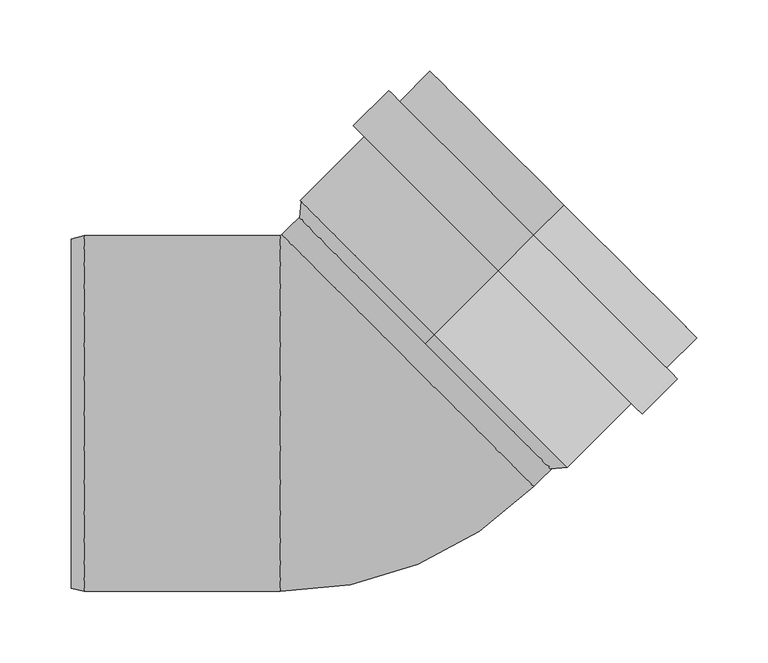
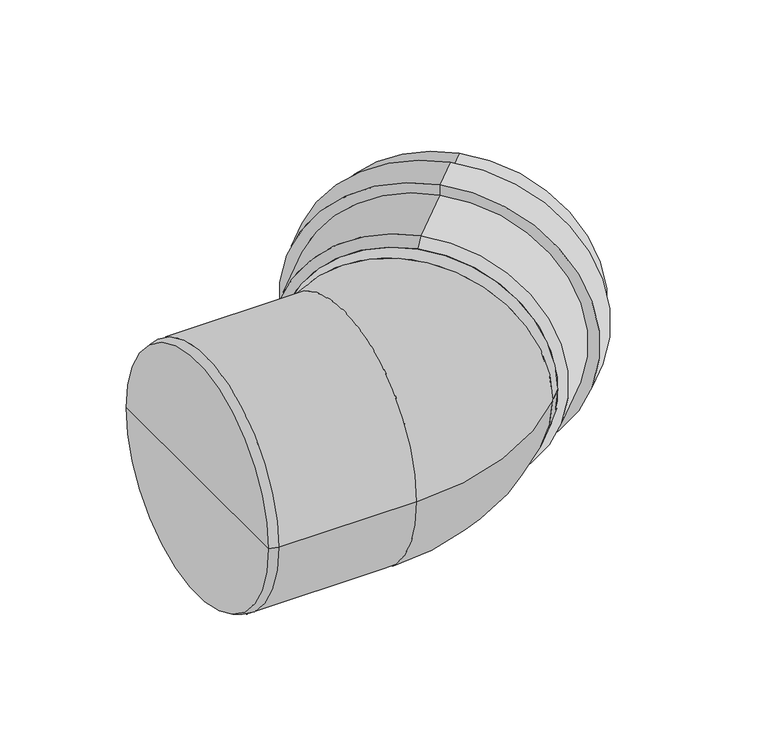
"""IFC4 building model written with IfcOpenShell, lengths in millimetres: pipe fitting geometry, OSMA_KG2000_PPKGB : Koleno 45°."""

from ifc_helpers import new_model, si_unit, point, frame, origin, place, context, project, spatial, polyline, circle_curve, ellipse_curve, trimmed, source, transform, mapped, element, save
from ifc_brep_helpers import plane_surface, cylinder_surface, revolved_surface, advanced_brep


def pipe_fitting_45af547f(model_context):
    return source(origin(), model_context, "Body", "AdvancedBrep", [
        advanced_brep(
        [(55.5078823, 55.5078823, 125.0), (55.5078823, 55.5078823, -125.0), (146.3711037, 146.3711037, -125.0), (146.3711037, 146.3711037, 125.0), (100.4091629, 100.4091629, 132.7), (100.4091629, 100.4091629, -132.7), (55.5078823, 55.5078823, -132.7), (55.5078823, 55.5078823, 132.7), (100.4091629, 100.4091629, 143.5), (100.4091629, 100.4091629, -143.5), (125.1579003, 125.1579003, 143.5), (125.1579003, 125.1579003, -143.5), (125.1579003, 125.1579003, 132.7), (125.1579003, 125.1579003, -132.7), (146.3711037, 146.3711037, 132.7), (146.3711037, 146.3711037, -132.7), (49.1439213, 49.1439213, 117.3), (49.1439213, 49.1439213, -117.3), (49.1439213, 49.1439213, 125.0), (49.1439213, 49.1439213, -125.0)],
        [
            (0, 1, circle_curve(frame((55.5078823, 55.5078823, 0.0), z_axis=(-0.7071067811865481, -0.7071067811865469, 0.0), x_axis=(0.0, 0.0, -1.0)), 125.0)),
            (1, 2),
            (2, 3, circle_curve(frame((146.3711037, 146.3711037, 0.0), z_axis=(0.7071067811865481, 0.7071067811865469, 0.0), x_axis=(0.0, 0.0, -1.0)), 125.0)),
            (3, 0),
            (1, 0, circle_curve(frame((55.5078823, 55.5078823, 0.0), z_axis=(-0.7071067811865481, -0.7071067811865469, 0.0), x_axis=(0.0, 0.0, -1.0)), 125.0)),
            (3, 2, circle_curve(frame((146.3711037, 146.3711037, 0.0), z_axis=(0.7071067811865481, 0.7071067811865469, 0.0), x_axis=(0.0, 0.0, -1.0)), 125.0)),
            (4, 5, circle_curve(frame((100.4091629, 100.4091629, 0.0), z_axis=(-0.7071067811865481, -0.7071067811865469, 0.0), x_axis=(0.0, 0.0, -1.0)), 132.7)),
            (5, 6),
            (6, 7, circle_curve(frame((55.5078823, 55.5078823, 0.0), z_axis=(0.7071067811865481, 0.7071067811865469, 0.0), x_axis=(0.0, 0.0, -1.0)), 132.7)),
            (7, 4),
            (5, 4, circle_curve(frame((100.4091629, 100.4091629, 0.0), z_axis=(-0.7071067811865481, -0.7071067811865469, 0.0), x_axis=(0.0, 0.0, -1.0)), 132.7)),
            (7, 6, circle_curve(frame((55.5078823, 55.5078823, 0.0), z_axis=(0.7071067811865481, 0.7071067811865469, 0.0), x_axis=(0.0, 0.0, -1.0)), 132.7)),
            (8, 9, circle_curve(frame((100.4091629, 100.4091629, 0.0), z_axis=(-0.7071067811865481, -0.7071067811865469, 0.0), x_axis=(0.0, 0.0, -1.0)), 143.5)),
            (9, 5),
            (4, 8),
            (9, 8, circle_curve(frame((100.4091629, 100.4091629, 0.0), z_axis=(-0.7071067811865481, -0.7071067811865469, 0.0), x_axis=(0.0, 0.0, -1.0)), 143.5)),
            (10, 11, circle_curve(frame((125.1579003, 125.1579003, 0.0), z_axis=(-0.7071067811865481, -0.7071067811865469, 0.0), x_axis=(0.0, 0.0, -1.0)), 143.5)),
            (11, 9),
            (8, 10),
            (11, 10, circle_curve(frame((125.1579003, 125.1579003, 0.0), z_axis=(-0.7071067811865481, -0.7071067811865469, 0.0), x_axis=(0.0, 0.0, -1.0)), 143.5)),
            (12, 13, circle_curve(frame((125.1579003, 125.1579003, 0.0), z_axis=(-0.7071067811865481, -0.7071067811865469, 0.0), x_axis=(0.0, 0.0, -1.0)), 132.7)),
            (13, 11),
            (10, 12),
            (13, 12, circle_curve(frame((125.1579003, 125.1579003, 0.0), z_axis=(-0.7071067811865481, -0.7071067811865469, 0.0), x_axis=(0.0, 0.0, -1.0)), 132.7)),
            (14, 15, circle_curve(frame((146.3711037, 146.3711037, 0.0), z_axis=(-0.7071067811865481, -0.7071067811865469, 0.0), x_axis=(0.0, 0.0, -1.0)), 132.7)),
            (15, 13),
            (12, 14),
            (15, 14, circle_curve(frame((146.3711037, 146.3711037, 0.0), z_axis=(-0.7071067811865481, -0.7071067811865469, 0.0), x_axis=(0.0, 0.0, -1.0)), 132.7)),
            (2, 15),
            (14, 3),
            (16, 17, circle_curve(frame((49.1439213, 49.1439213, 0.0), z_axis=(-0.7071067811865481, -0.7071067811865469, 0.0), x_axis=(0.0, 0.0, -1.0)), 117.3)),
            (17, 1),
            (0, 16),
            (17, 16, circle_curve(frame((49.1439213, 49.1439213, 0.0), z_axis=(-0.7071067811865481, -0.7071067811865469, 0.0), x_axis=(0.0, 0.0, -1.0)), 117.3)),
            (18, 19, circle_curve(frame((49.1439213, 49.1439213, 0.0), z_axis=(-0.7071067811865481, -0.7071067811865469, 0.0), x_axis=(0.0, 0.0, -1.0)), 125.0)),
            (19, 17),
            (16, 18),
            (19, 18, circle_curve(frame((49.1439213, 49.1439213, 0.0), z_axis=(-0.7071067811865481, -0.7071067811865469, 0.0), x_axis=(0.0, 0.0, -1.0)), 125.0)),
            (6, 19),
            (18, 7),
        ],
        [
            revolved_surface(polyline([(146.37110369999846, 146.37110370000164, -125.0), (55.5078822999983, 55.50788230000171, -125.0)]), (2033.9744267, 2033.9744267, 0.0), (0.7071067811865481, 0.7071067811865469, 0.0)),
            cylinder_surface(frame((2033.9744267, 2033.9744267, 0.0), z_axis=(0.7071067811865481, 0.7071067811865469, 0.0), x_axis=(0.0, 0.0, -1.0)), 132.7),
            plane_surface(frame((100.4091629, 100.4091629, 0.0), z_axis=(-0.7071067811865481, -0.7071067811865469, 0.0), x_axis=(0.0, 0.0, -1.0))),
            cylinder_surface(frame((2033.9744267, 2033.9744267, 0.0), z_axis=(0.7071067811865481, 0.7071067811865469, 0.0), x_axis=(0.0, 0.0, -1.0)), 143.5),
            plane_surface(frame((125.1579003, 125.1579003, 0.0), z_axis=(0.7071067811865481, 0.7071067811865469, 0.0), x_axis=(0.0, 0.0, -1.0))),
            plane_surface(frame((146.3711037, 146.3711037, 0.0), z_axis=(0.7071067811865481, 0.7071067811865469, 0.0), x_axis=(0.0, 0.0, -1.0))),
            revolved_surface(polyline([(55.5078823, 55.5078823, -125.0), (49.1439213, 49.1439213, -117.3)]), (2033.9744267, 2033.9744267, 0.0), (0.7071067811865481, 0.7071067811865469, 0.0)),
            plane_surface(frame((49.1439213, 49.1439213, 0.0), z_axis=(-0.7071067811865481, -0.7071067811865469, 0.0), x_axis=(0.0, 0.0, -1.0))),
            revolved_surface(polyline([(49.1439213, 49.1439213, -125.0), (55.5078823, 55.5078823, -132.7)]), (2033.9744267, 2033.9744267, 0.0), (0.7071067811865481, 0.7071067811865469, 0.0)),
        ],
        [
            (0, [[1, 2, 3, 4]]),
            (0, [[5, -4, 6, -2]]),
            (1, [[7, 8, 9, 10]]),
            (1, [[11, -10, 12, -8]]),
            (2, [[13, 14, -7, 15]]),
            (2, [[16, -15, -11, -14]]),
            (3, [[17, 18, -13, 19]]),
            (3, [[20, -19, -16, -18]]),
            (4, [[21, 22, -17, 23]]),
            (4, [[24, -23, -20, -22]]),
            (1, [[25, 26, -21, 27]]),
            (1, [[28, -27, -24, -26]]),
            (5, [[-3, 29, -25, 30]]),
            (5, [[-6, -30, -28, -29]]),
            (6, [[31, 32, -1, 33]]),
            (6, [[34, -33, -5, -32]]),
            (7, [[35, 36, -31, 37]]),
            (7, [[38, -37, -34, -36]]),
            (8, [[-9, 39, -35, 40]]),
            (8, [[-12, -40, -38, -39]]),
        ],
    ),
        advanced_brep(
        [(-51.3373555, 125.4393398, 0.0), (-52.3980156, 125.0, 0.0), (-52.3980156, -125.0, 0.0), (125.4393398, -51.3373555, 0.0), (37.0509922, 37.0509922, 125.0), (37.0509922, 37.0509922, -125.0), (-199.0, 0.0, 0.0), (-199.0, 122.5884572, 0.0), (-199.0, -122.5884572, 0.0), (-190.0, 125.0, 0.0), (-190.0, -125.0, 0.0), (142.8355698, -33.9411255, 0.0), (-33.9411255, 142.8355698, 0.0)],
        [
            (0, 1, circle_curve(frame((-52.3980156, 126.5, 0.0), z_axis=(0.0, 0.0, -1.0), x_axis=(0.0, -1.0, 0.0)), 1.5)),
            (1, 2, circle_curve(frame((-52.3980156, 0.0, 0.0), z_axis=(1.0, 0.0, 0.0), x_axis=(0.0, 1.0, 0.0)), 125.0)),
            (2, 3, circle_curve(frame((-52.3980156, 126.5, 0.0), z_axis=(0.0, 0.0, 1.0), x_axis=(0.0, -1.0, 0.0)), 251.5)),
            (3, 4, circle_curve(frame((37.0509922, 37.0509922, 0.0), z_axis=(-0.7071067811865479, -0.7071067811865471, 0.0), x_axis=(-0.7071067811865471, 0.7071067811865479, 0.0)), 125.0)),
            (4, 0, circle_curve(frame((37.0509922, 37.0509922, 0.0), z_axis=(-0.7071067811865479, -0.7071067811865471, 0.0), x_axis=(-0.7071067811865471, 0.7071067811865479, 0.0)), 125.0)),
            (0, 5, circle_curve(frame((37.0509922, 37.0509922, 0.0), z_axis=(-0.7071067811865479, -0.7071067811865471, 0.0), x_axis=(-0.7071067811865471, 0.7071067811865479, 0.0)), 125.0)),
            (5, 3, circle_curve(frame((37.0509922, 37.0509922, 0.0), z_axis=(-0.7071067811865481, -0.7071067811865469, 0.0), x_axis=(-0.7071067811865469, 0.7071067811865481, 0.0)), 125.0)),
            (2, 1, circle_curve(frame((-52.3980156, 0.0, 0.0), z_axis=(1.0, 0.0, 0.0), x_axis=(0.0, 1.0, 0.0)), 125.0)),
            (6, 7),
            (7, 8, circle_curve(frame((-199.0, 0.0, 0.0), z_axis=(-1.0, 0.0, 0.0), x_axis=(0.0, 1.0, 0.0)), 122.5884572)),
            (8, 6),
            (8, 7, circle_curve(frame((-199.0, 0.0, 0.0), z_axis=(-1.0, 0.0, 0.0), x_axis=(0.0, 1.0, 0.0)), 122.5884572)),
            (7, 9),
            (9, 10, circle_curve(frame((-190.0, 0.0, 0.0), z_axis=(-1.0, 0.0, 0.0), x_axis=(0.0, 1.0, 0.0)), 125.0)),
            (10, 8),
            (10, 9, circle_curve(frame((-190.0, 0.0, 0.0), z_axis=(-1.0, 0.0, 0.0), x_axis=(0.0, 1.0, 0.0)), 125.0)),
            (9, 1),
            (2, 10),
            (11, 12, circle_curve(frame((54.4472222, 54.4472222, 0.0), z_axis=(0.707106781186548, 0.707106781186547, 0.0), x_axis=(-0.707106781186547, 0.707106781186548, 0.0)), 125.0)),
            (12, 11, circle_curve(frame((54.4472222, 54.4472222, 0.0), z_axis=(0.707106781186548, 0.707106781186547, 0.0), x_axis=(-0.707106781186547, 0.707106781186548, 0.0)), 125.0)),
            (12, 0),
            (3, 11),
        ],
        [
            revolved_surface(trimmed(ellipse_curve(frame((-52.3980156, 0.0, 0.0), z_axis=(-1.0, 0.0, 0.0), x_axis=(0.0, 1.0, 0.0)), 125.0, 125.0), [point((-52.3980156, -125.0, 0.0))], [point((-52.3980156, 125.0, 0.0))], True, "CARTESIAN"), (-52.3980156, 126.5, 0.0), (0.0, 0.0, 1.0)),
            revolved_surface(trimmed(ellipse_curve(frame((-52.3980156, 0.0, 0.0), z_axis=(-1.0, 0.0, 0.0), x_axis=(0.0, 1.0, 0.0)), 125.0, 125.0), [point((-52.3980156, 125.0, 0.0))], [point((-52.3980156, -125.0, 0.0))], True, "CARTESIAN"), (-52.3980156, 126.5, 0.0), (0.0, 0.0, 1.0)),
            plane_surface(frame((-199.0, 0.0, 0.0), z_axis=(-1.0, 0.0, 0.0), x_axis=(0.0, 1.0, 0.0))),
            revolved_surface(polyline([(-190.0, 125.0, 0.0), (-199.0, 122.5884572, 0.0)]), (331.0587718, 0.0, 0.0), (-1.0, 0.0, 0.0)),
            cylinder_surface(frame((331.0587718, 0.0, 0.0), z_axis=(-1.0, 0.0, 0.0), x_axis=(0.0, 1.0, 0.0)), 125.0),
            plane_surface(frame((54.4472222, 54.4472222, 0.0), z_axis=(0.707106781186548, 0.707106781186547, 0.0), x_axis=(0.0, 0.0, 1.0))),
            cylinder_surface(frame((37.0509922, 37.0509922, 0.0), z_axis=(-0.707106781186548, -0.707106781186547, 0.0), x_axis=(-0.707106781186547, 0.707106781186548, 0.0)), 125.0),
        ],
        [
            (0, [[1, 2, 3, 4, 5]]),
            (1, [[-1, 6, 7, -3, 8]]),
            (2, [[9, 10, 11]]),
            (2, [[-9, -11, 12]]),
            (3, [[-10, 13, 14, 15]]),
            (3, [[-12, -15, 16, -13]]),
            (4, [[-14, 17, -8, 18]]),
            (4, [[-16, -18, -2, -17]]),
            (5, [[19, 20]]),
            (6, [[-20, 21, -5, -4, 22]]),
            (6, [[-19, -22, -7, -6, -21]]),
        ],
    ),
    ])


if __name__ == "__main__":
    model = new_model("IFC4")
    model_context = context("Model", 3, world=origin())
    ifc_project = project(units=[si_unit("LENGTHUNIT", "METRE", prefix="MILLI")], contexts=[model_context])
    site = spatial("IfcSite", under=ifc_project)
    building = spatial("IfcBuilding", under=site)
    placement = place(None, origin())
    pipe_fitting_shape = pipe_fitting_45af547f(model_context)
    element("IfcPipeFitting", 1, ObjectType="OSMA_KG2000_PPKGB : Koleno 45°", at=placement, inside=building, context=model_context, shape_type="MappedRepresentation", body=[
        mapped(pipe_fitting_shape, transform((0.0, 0.0, 0.0), x_axis=(1.0, 0.0, 0.0), y_axis=(0.0, 1.0, 0.0), z_axis=(0.0, 0.0, 1.0))),
    ])
    save(model, "model.ifc")
